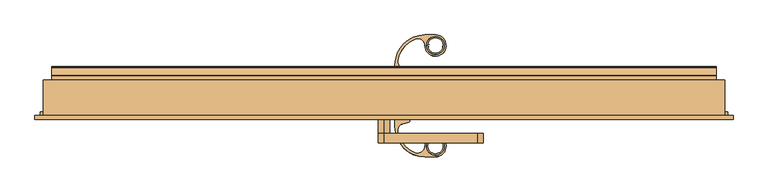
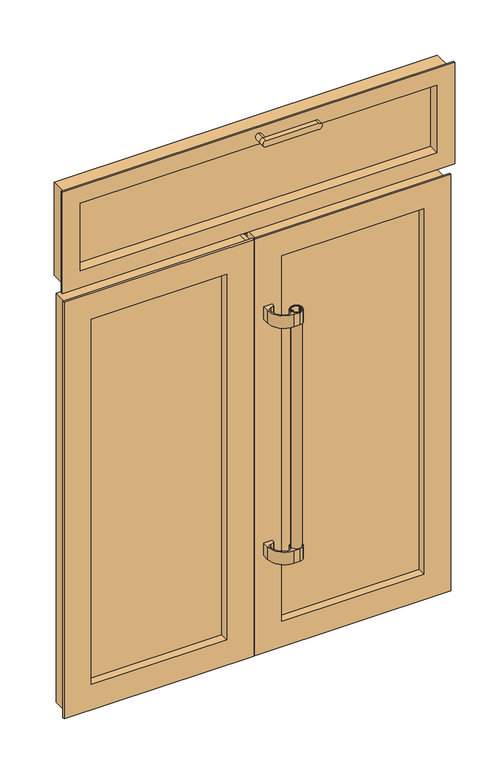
"""IFC4 building model written with IfcOpenShell, lengths in millimetres: door geometry, Dvokrilna vrata s ventusom__ : Dvokrilna vrata s ventusom__."""

from ifc_helpers import new_model, si_unit, point, frame, frame_2d, origin, place, context, project, spatial, polyline, circle_curve, trimmed, segment, composite_curve, outline, extrude, faceted_brep, source, transform, mapped, element, save
from ifc_brep_helpers import plane_surface, cylinder_surface, revolved_surface, advanced_brep


def door_cfd425c1(model_context):
    return source(origin(), model_context, "Body", "SolidModel", [
        advanced_brep(
        [(0.0, -82.999756, 2097.9939147), (200.0, -82.999756, 2097.9939147), (200.0, -82.999756, 2122.9939147), (0.0, -82.999756, 2122.9939147), (0.0, -62.999756, 2122.9939147), (200.0, -62.999756, 2122.9939147), (200.0, -62.999756, 2097.9939147), (0.0, -62.999756, 2097.9939147), (0.0, -32.999756, 2097.9939147), (0.0, -32.999756, 2122.9939147)],
        [
            (0, 1),
            (1, 2, circle_curve(frame((200.0, -82.999756, 2110.4939147), z_axis=(0.0, -1.0, 0.0), x_axis=(0.0, 0.0, 1.0)), 12.5)),
            (2, 3),
            (3, 0, circle_curve(frame((0.0, -82.999756, 2110.4939147), z_axis=(0.0, -1.0, 0.0), x_axis=(0.0, 0.0, 1.0)), 12.5)),
            (4, 5),
            (5, 6, circle_curve(frame((200.0, -62.999756, 2110.4939147), z_axis=(0.0, 1.0, 0.0), x_axis=(0.0, 0.0, 1.0)), 12.5)),
            (6, 7),
            (7, 4, circle_curve(frame((0.0, -62.999756, 2110.4939147), z_axis=(0.0, -1.0, 0.0), x_axis=(0.0, 0.0, 1.0)), 12.5)),
            (0, 7),
            (6, 1),
            (5, 2),
            (4, 3),
            (4, 7, circle_curve(frame((0.0, -62.999756, 2110.4939147), z_axis=(0.0, -1.0, 0.0), x_axis=(0.0, 0.0, 1.0)), 12.5)),
            (8, 9, circle_curve(frame((0.0, -32.999756, 2110.4939147), z_axis=(0.0, 1.0, 0.0), x_axis=(0.0, 0.0, 1.0)), 12.5)),
            (9, 8, circle_curve(frame((0.0, -32.999756, 2110.4939147), z_axis=(0.0, 1.0, 0.0), x_axis=(0.0, 0.0, 1.0)), 12.5)),
            (9, 4),
            (7, 8),
        ],
        [
            plane_surface(frame((0.0, -82.999756, 2097.9939147), z_axis=(0.0, -1.0, 0.0), x_axis=(1.0, 0.0, 0.0))),
            plane_surface(frame((0.0, -62.999756, 2097.9939147), z_axis=(0.0, 1.0, 0.0), x_axis=(-1.0, 0.0, 0.0))),
            plane_surface(frame((0.0, -82.999756, 2097.9939147), z_axis=(0.0, 0.0, -1.0), x_axis=(0.0, 1.0, 0.0))),
            cylinder_surface(frame((200.0, -62.999756, 2110.4939147), z_axis=(0.0, -1.0, 0.0), x_axis=(0.0, 0.0, 1.0)), 12.5),
            plane_surface(frame((200.0, -82.999756, 2122.9939147), z_axis=(0.0, 0.0, 1.0), x_axis=(0.0, 1.0, 0.0))),
            cylinder_surface(frame((0.0, -62.999756, 2110.4939147), z_axis=(0.0, -1.0, 0.0), x_axis=(0.0, 0.0, 1.0)), 12.5),
            plane_surface(frame((0.0, -32.999756, 2122.9939147), z_axis=(0.0, 1.0, 0.0), x_axis=(1.0, 0.0, 0.0))),
            cylinder_surface(frame((0.0, -32.999756, 2110.4939147), z_axis=(0.0, -1.0, 0.0), x_axis=(0.0, 0.0, 1.0)), 12.5),
        ],
        [
            (0, [[1, 2, 3, 4]]),
            (1, [[5, 6, 7, 8]]),
            (2, [[-1, 9, -7, 10]]),
            (3, [[-2, -10, -6, 11]]),
            (4, [[-3, -11, -5, 12]]),
            (5, [[-4, -12, 13, -9]]),
            (6, [[14, 15]]),
            (7, [[-15, 16, -8, 17]]),
            (7, [[-14, -17, -13, -16]]),
        ],
    ),
        advanced_brep(
        [(728.9999515, 51.5038013, 2128.9999515), (728.9999515, -24.999648, 2128.9999515), (728.9999515, -24.999648, 1756.0000485), (728.9999515, 51.5038013, 1756.0000485), (746.499939, -24.999648, 2146.499939), (746.499939, -24.999648, 1738.500061), (-746.499939, -24.999648, 1738.500061), (-746.499939, -24.999648, 2146.499939), (-728.9999515, -24.999648, 2128.9999515), (-728.9999515, -24.999648, 1756.0000485), (-728.9999515, 51.5038013, 1756.0000485), (-728.9999515, 51.5038013, 2128.9999515), (710.4939147, 51.5038013, 1774.5060853), (710.4939147, 51.5038013, 2110.4939147), (-710.4939147, 51.5038013, 2110.4939147), (-710.4939147, 51.5038013, 1774.5060853), (710.4939147, 60.0038013, 2110.4939147), (710.4939147, 60.0038013, 1774.5060853), (710.4939147, 61.4141959, 1774.5111266), (710.4939147, 61.4037953, 1777.4208963), (710.4939147, 65.4038077, 1784.3492482), (710.4939147, 77.4038016, 1777.4209945), (710.4939147, 78.5507585, 1774.5060853), (710.4939147, 79.9814633, 1774.5060853), (710.4939147, 78.0037713, 1778.6911593), (710.4939147, 61.0038323, 1788.5061013), (710.4939147, 60.0038013, 1788.5061013), (-710.4939147, 60.0038013, 1774.5060853), (-710.4939147, 61.4141959, 1774.5111266), (-710.4939147, 61.4037953, 1777.4208963), (-710.4939147, 65.4038077, 1784.3492482), (-710.4939147, 77.4038016, 1777.4209945), (-710.4939147, 78.5507585, 1774.5060853), (-710.4939147, 79.9814633, 1774.5060853), (-710.4939147, 78.0037713, 1778.6911593), (-710.4939147, 61.0038323, 1788.5061013), (-710.4939147, 60.0038013, 1788.5061013), (-710.4939147, 60.0038013, 2110.4939147), (678.0736554, 60.0038013, 1806.9263446), (678.0736554, 60.0038013, 2078.0736554), (-678.0736554, 60.0038013, 2078.0736554), (-678.0736554, 60.0038013, 1806.9263446), (678.0736554, 52.5070907, 2078.0736554), (678.0736554, 52.5070907, 1806.9263446), (-678.0736554, 52.5070907, 1806.9263446), (690.0778178, 52.5070907, 1794.9221822), (690.0778178, 52.5070907, 2090.0778178), (-690.0778178, 52.5070907, 2090.0778178), (-690.0778178, 52.5070907, 1794.9221822), (-678.0736554, 52.5070907, 2078.0736554), (690.0778178, 8.5070907, 2090.0778178), (690.0778178, 8.5070907, 1794.9221822), (-690.0778178, 8.5070907, 1794.9221822), (-690.0778178, 8.5070907, 2090.0778178), (677.9998235, 8.5070907, 1807.0001765), (677.9998235, 8.5070907, 2077.9998235), (-677.9998235, 8.5070907, 2077.9998235), (-677.9998235, 8.5070907, 1807.0001765), (677.9998235, -32.999756, 2077.9998235), (677.9998235, -32.999756, 1807.0001765), (-677.9998235, -32.999756, 1807.0001765), (746.499939, -32.999756, 1738.500061), (746.499939, -32.999756, 2146.499939), (-746.499939, -32.999756, 2146.499939), (-746.499939, -32.999756, 1738.500061), (-677.9998235, -32.999756, 2077.9998235)],
        [
            (0, 1),
            (1, 2),
            (2, 3),
            (3, 0),
            (4, 5),
            (5, 6),
            (6, 7),
            (7, 4),
            (1, 8),
            (8, 9),
            (9, 2),
            (9, 10),
            (10, 3),
            (10, 11),
            (11, 0),
            (12, 13),
            (13, 14),
            (14, 15),
            (15, 12),
            (16, 13),
            (12, 17),
            (17, 18),
            (18, 19),
            (19, 20),
            (20, 21),
            (21, 22, circle_curve(frame((710.4939147, 75.416766, 1774.9560302), z_axis=(-1.0, 0.0, 0.0), x_axis=(0.0, 0.6275919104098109, 0.7785424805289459)), 3.1661269)),
            (22, 23),
            (23, 24, circle_curve(frame((710.4939147, 75.7117201, 1775.0482067), z_axis=(1.0, 0.0, 0.0), x_axis=(0.0, 0.9920357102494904, -0.12595693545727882)), 4.3040217)),
            (24, 25),
            (25, 26),
            (26, 16),
            (15, 27),
            (27, 17),
            (27, 28),
            (28, 18),
            (28, 29),
            (29, 19),
            (29, 30),
            (30, 20),
            (30, 31),
            (31, 21),
            (31, 32, circle_curve(frame((-710.4939147, 75.416766, 1774.9560302), z_axis=(-1.0, 0.0, 0.0), x_axis=(0.0, 0.6275919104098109, 0.7785424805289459)), 3.1661269)),
            (32, 22),
            (32, 33),
            (33, 23),
            (33, 34, circle_curve(frame((-710.4939147, 75.7117201, 1775.0482067), z_axis=(1.0, 0.0, 0.0), x_axis=(0.0, 0.9920357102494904, -0.12595693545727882)), 4.3040217)),
            (34, 24),
            (34, 35),
            (35, 25),
            (35, 36),
            (36, 26),
            (37, 16),
            (36, 37),
            (38, 39),
            (39, 40),
            (40, 41),
            (41, 38),
            (42, 39),
            (38, 43),
            (43, 42),
            (41, 44),
            (44, 43),
            (45, 46),
            (46, 47),
            (47, 48),
            (48, 45),
            (44, 49),
            (49, 42),
            (50, 46),
            (45, 51),
            (51, 50),
            (48, 52),
            (52, 51),
            (52, 53),
            (53, 50),
            (54, 55),
            (55, 56),
            (56, 57),
            (57, 54),
            (58, 55),
            (54, 59),
            (59, 58),
            (57, 60),
            (60, 59),
            (61, 62),
            (62, 63),
            (63, 64),
            (64, 61),
            (60, 65),
            (65, 58),
            (61, 5),
            (4, 62),
            (64, 6),
            (8, 11),
            (14, 37),
            (40, 49),
            (47, 53),
            (56, 65),
            (63, 7),
        ],
        [
            plane_surface(frame((728.9999515, -24.999648, 2128.9999515), z_axis=(1.0, 0.0, 0.0), x_axis=(0.0, 0.0, -1.0))),
            plane_surface(frame((-746.499939, -24.999648, 2146.499939), z_axis=(0.0, 1.0, 0.0), x_axis=(1.0, 0.0, 0.0))),
            plane_surface(frame((728.9999515, -24.999648, 1756.0000485), z_axis=(0.0, 0.0, -1.0), x_axis=(-1.0, 0.0, 0.0))),
            plane_surface(frame((-728.9999515, 51.5038013, 2128.9999515), z_axis=(0.0, 1.0, 0.0), x_axis=(1.0, 0.0, 0.0))),
            plane_surface(frame((710.4939147, 51.5038013, 2110.4939147), z_axis=(1.0, 0.0, 0.0), x_axis=(0.0, 0.0, -1.0))),
            plane_surface(frame((710.4939147, 51.5038013, 1774.5060853), z_axis=(0.0, 0.0, -1.0), x_axis=(-1.0, 0.0, 0.0))),
            plane_surface(frame((-710.4939147, 61.4141959, 1774.5111266), z_axis=(0.0, 0.003574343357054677, -0.9999936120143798), x_axis=(1.0, 0.0, 0.0))),
            plane_surface(frame((-710.4939147, 61.4037953, 1777.4208963), z_axis=(0.0, 0.9999936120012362, 0.0035743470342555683), x_axis=(1.0, 0.0, 0.0))),
            plane_surface(frame((-710.4939147, 65.4038077, 1784.3492482), z_axis=(0.0, 0.8660293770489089, -0.49999311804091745), x_axis=(1.0, 0.0, 0.0))),
            plane_surface(frame((-710.4939147, 77.4038016, 1777.4209945), z_axis=(0.0, -0.5000029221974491, -0.8660237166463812), x_axis=(1.0, 0.0, 0.0))),
            revolved_surface(polyline([(710.4939147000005, 77.40380162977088, 1777.4209944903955), (-710.4939147, 77.40380162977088, 1777.4209944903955)]), (-710.4939147, 75.416766, 1774.9560302), (1.0000000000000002, 0.0, 0.0)),
            plane_surface(frame((-710.4939147, 79.9814633, 1774.5060853), z_axis=(0.0, 0.0, -1.0), x_axis=(1.0, 0.0, 0.0))),
            cylinder_surface(frame((-710.4939147, 75.7117201, 1775.0482067), z_axis=(-1.0, 0.0, 0.0), x_axis=(0.0, 0.9920357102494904, -0.12595693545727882)), 4.3040217),
            plane_surface(frame((-710.4939147, 61.0038323, 1788.5061013), z_axis=(0.0, 0.5000008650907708, 0.8660249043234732), x_axis=(1.0, 0.0, 0.0))),
            plane_surface(frame((-710.4939147, 60.0038013, 1788.5061013), z_axis=(0.0, 0.0, 1.0), x_axis=(1.0, 0.0, 0.0))),
            plane_surface(frame((-710.4939147, 60.0038013, 2110.4939147), z_axis=(0.0, 1.0, 0.0), x_axis=(1.0, 0.0, 0.0))),
            plane_surface(frame((678.0736554, 60.0038013, 2078.0736554), z_axis=(-1.0, 0.0, 0.0), x_axis=(0.0, 0.0, -1.0))),
            plane_surface(frame((678.0736554, 60.0038013, 1806.9263446), z_axis=(0.0, 0.0, 1.0), x_axis=(-1.0, 0.0, 0.0))),
            plane_surface(frame((-678.0736554, 52.5070907, 2078.0736554), z_axis=(0.0, -1.0, 0.0), x_axis=(1.0, 0.0, 0.0))),
            plane_surface(frame((690.0778178, 52.5070907, 2090.0778178), z_axis=(-1.0, 0.0, 0.0), x_axis=(0.0, 0.0, -1.0))),
            plane_surface(frame((690.0778178, 52.5070907, 1794.9221822), z_axis=(0.0, 0.0, 1.0), x_axis=(-1.0, 0.0, 0.0))),
            plane_surface(frame((-690.0778178, 8.5070907, 2090.0778178), z_axis=(0.0, 1.0, 0.0), x_axis=(1.0, 0.0, 0.0))),
            plane_surface(frame((677.9998235, 8.5070907, 2077.9998235), z_axis=(-1.0, 0.0, 0.0), x_axis=(0.0, 0.0, -1.0))),
            plane_surface(frame((677.9998235, 8.5070907, 1807.0001765), z_axis=(0.0, 0.0, 1.0), x_axis=(-1.0, 0.0, 0.0))),
            plane_surface(frame((-677.9998235, -32.999756, 2077.9998235), z_axis=(0.0, -1.0, 0.0), x_axis=(1.0, 0.0, 0.0))),
            plane_surface(frame((746.499939, -30.1996883, 2146.499939), z_axis=(1.0, 0.0, 0.0), x_axis=(0.0, 0.0, -1.0))),
            plane_surface(frame((746.499939, -30.1996883, 1738.500061), z_axis=(0.0, 0.0, -1.0), x_axis=(-1.0, 0.0, 0.0))),
            plane_surface(frame((-728.9999515, -24.999648, 1756.0000485), z_axis=(-1.0, 0.0, 0.0), x_axis=(0.0, 0.0, 1.0))),
            plane_surface(frame((-710.4939147, 51.5038013, 1774.5060853), z_axis=(-1.0, 0.0, 0.0), x_axis=(0.0, 0.0, 1.0))),
            plane_surface(frame((-678.0736554, 60.0038013, 1806.9263446), z_axis=(1.0, 0.0, 0.0), x_axis=(0.0, 0.0, 1.0))),
            plane_surface(frame((-690.0778178, 52.5070907, 1794.9221822), z_axis=(1.0, 0.0, 0.0), x_axis=(0.0, 0.0, 1.0))),
            plane_surface(frame((-677.9998235, 8.5070907, 1807.0001765), z_axis=(1.0, 0.0, 0.0), x_axis=(0.0, 0.0, 1.0))),
            plane_surface(frame((-746.499939, -30.1996883, 1738.500061), z_axis=(-1.0, 0.0, 0.0), x_axis=(0.0, 0.0, 1.0))),
            plane_surface(frame((-728.9999515, -24.999648, 2128.9999515), z_axis=(0.0, 0.0, 1.0), x_axis=(1.0, 0.0, 0.0))),
            plane_surface(frame((-710.4939147, 51.5038013, 2110.4939147), z_axis=(0.0, 0.0, 1.0), x_axis=(1.0, 0.0, 0.0))),
            plane_surface(frame((-678.0736554, 60.0038013, 2078.0736554), z_axis=(0.0, 0.0, -1.0), x_axis=(1.0, 0.0, 0.0))),
            plane_surface(frame((-690.0778178, 52.5070907, 2090.0778178), z_axis=(0.0, 0.0, -1.0), x_axis=(1.0, 0.0, 0.0))),
            plane_surface(frame((-677.9998235, 8.5070907, 2077.9998235), z_axis=(0.0, 0.0, -1.0), x_axis=(1.0, 0.0, 0.0))),
            plane_surface(frame((-746.499939, -30.1996883, 2146.499939), z_axis=(0.0, 0.0, 1.0), x_axis=(1.0, 0.0, 0.0))),
        ],
        [
            (0, [[1, 2, 3, 4]]),
            (1, [[5, 6, 7, 8], [-2, 9, 10, 11]]),
            (2, [[-3, -11, 12, 13]]),
            (3, [[-4, -13, 14, 15], [16, 17, 18, 19]]),
            (4, [[20, -16, 21, 22, 23, 24, 25, 26, 27, 28, 29, 30, 31]]),
            (5, [[-21, -19, 32, 33]]),
            (6, [[34, 35, -22, -33]]),
            (7, [[36, 37, -23, -35]]),
            (8, [[38, 39, -24, -37]]),
            (9, [[40, 41, -25, -39]]),
            (10, [[42, 43, -26, -41]]),
            (11, [[44, 45, -27, -43]]),
            (12, [[46, 47, -28, -45]]),
            (13, [[48, 49, -29, -47]]),
            (14, [[50, 51, -30, -49]]),
            (15, [[52, -31, -51, 53], [54, 55, 56, 57]]),
            (16, [[58, -54, 59, 60]]),
            (17, [[-59, -57, 61, 62]]),
            (18, [[63, 64, 65, 66], [-60, -62, 67, 68]]),
            (19, [[69, -63, 70, 71]]),
            (20, [[-70, -66, 72, 73]]),
            (21, [[-71, -73, 74, 75], [76, 77, 78, 79]]),
            (22, [[80, -76, 81, 82]]),
            (23, [[-81, -79, 83, 84]]),
            (24, [[85, 86, 87, 88], [-82, -84, 89, 90]]),
            (25, [[-85, 91, -5, 92]]),
            (26, [[-91, -88, 93, -6]]),
            (27, [[-12, -10, 94, -14]]),
            (28, [[-32, -18, 95, -53, -50, -48, -46, -44, -42, -40, -38, -36, -34]]),
            (29, [[-61, -56, 96, -67]]),
            (30, [[-72, -65, 97, -74]]),
            (31, [[-83, -78, 98, -89]]),
            (32, [[-93, -87, 99, -7]]),
            (33, [[-1, -15, -94, -9]]),
            (34, [[-20, -52, -95, -17]]),
            (35, [[-58, -68, -96, -55]]),
            (36, [[-69, -75, -97, -64]]),
            (37, [[-80, -90, -98, -77]]),
            (38, [[-92, -8, -99, -86]]),
        ],
    ),
        extrude(outline(polyline([(690.0778178, 8.5070907), (-690.0778178, 8.5070907), (-690.0778178, 51.5038013), (690.0778178, 51.5038013), (690.0778178, 8.5070907)])), frame((0.0, 0.0, 1794.9221822), z_axis=(0.0, 0.0, 1.0), x_axis=(1.0, 0.0, 0.0)), (0.0, 0.0, 1.0), 295.1556356),
        faceted_brep([(-14.9998666, -25.0, 1694.4976678), (-14.9998666, -25.0, 20.0023322), (-14.9998666, -16.646765, 20.0023326), (-14.9998666, -16.646765, 48.5023322), (-14.9998666, -16.4917818, 1665.9976678), (-14.9998666, -16.646765, 1694.4976674), (-735.4976678, -25.0, 1694.4976678), (-735.4976678, -25.0, 20.0023322), (-117.4957952, -25.0, 1592.0017387), (-117.4957952, -25.0, 122.4982613), (-633.0017387, -25.0, 122.4982613), (-633.0017387, -25.0, 1592.0017387), (-735.4976674, -16.646765, 20.0023326), (-735.4976674, -16.646765, 1694.4976674), (-25.9998666, -16.646765, 1665.9976678), (-25.9998666, -16.646765, 1683.4976674), (-724.4976674, -16.646765, 1683.4976674), (-724.4976674, -16.646765, 31.0023326), (-25.9998666, -16.646765, 31.0023326), (-25.9998666, -16.646765, 48.5023322), (-5.492721, -16.4917818, 48.5023322), (-5.492721, -16.4917818, 1665.9976678), (-117.4957952, 6.5067387, 1592.0017387), (-117.4957952, 6.5067387, 122.4982613), (-102.4933814, 6.5067387, 1607.0041526), (-102.4933814, 6.5067387, 107.4958474), (-648.0041526, 6.5067387, 107.4958474), (-648.0041526, 6.5067387, 1607.0041526), (-633.0017387, 6.5067387, 1592.0017387), (-633.0017387, 6.5067387, 122.4982613), (-102.4933814, 50.5067387, 1607.0041526), (-102.4933814, 50.5067387, 107.4958474), (-648.0041526, 50.5067387, 1607.0041526), (-648.0041526, 50.5067387, 107.4958474), (-117.4957886, 50.5067387, 1592.0017454), (-117.4957886, 50.5067387, 122.4982546), (-633.0017454, 50.5067387, 122.4982546), (-633.0017454, 50.5067387, 1592.0017454), (-117.4957886, 59.9999866, 1592.0017454), (-117.4957886, 59.9999866, 122.4982546), (-39.9998666, 59.9999866, 1669.4976674), (-39.9998666, 59.9999866, 45.0023326), (-710.4976674, 59.9999866, 44.9982553), (-710.4976674, 59.9999866, 1669.4976674), (-633.0017454, 59.9999866, 1592.0017454), (-633.0017454, 59.9999866, 122.4982546), (-39.9998666, 51.4963512, 1669.4976674), (-39.9998666, 51.4963512, 34.8482553), (-39.9998666, 39.7470601, 34.8482553), (-39.9998666, 39.7470601, 33.5977735), (-39.9998666, 42.6770113, 33.5977735), (-39.9998666, 41.7431491, 28.6475959), (-39.9998666, 45.1528763, 28.3738347), (-39.9998666, 47.6474994, 27.9238758), (-39.9998666, 46.614954, 33.5977735), (-39.9998666, 52.7470601, 33.5977735), (-39.9998666, 52.7470601, 42.7030483), (-39.9998666, 53.8843606, 43.8444697), (-39.9998666, 61.0093813, 43.8444697), (-39.9998666, 68.5506954, 35.7574003), (-39.9998666, 68.5506954, 33.8818501), (-39.9998666, 70.0506954, 33.8818501), (-39.9998666, 70.0506954, 35.9083823), (-39.9998666, 61.5742517, 44.9982553), (-720.6517447, 51.4963512, 34.8482553), (-720.6517447, 51.4963512, 1679.6517447), (-29.8457893, 51.4963512, 1679.6517447), (-29.8457893, 51.4963512, 1665.9976678), (-34.9975292, 51.4963512, 1665.9976678), (-34.9975292, 51.4963512, 48.5023322), (-29.8457893, 51.4963512, 48.5023322), (-29.8457893, 51.4963512, 34.8482553), (-710.4976674, 51.4963512, 1669.4976674), (-710.4976674, 51.4963512, 34.8482553), (-29.8457893, -14.7996746, 34.8482553), (-720.6517447, -14.7996746, 34.8482553), (-710.4976674, 39.7470601, 34.8482553), (-710.4976674, 39.7470601, 33.5977735), (-710.4976674, 42.6770113, 33.5977735), (-710.4976674, 41.7431491, 28.6475959), (-710.4976674, 45.1528763, 28.3738347), (-710.4976674, 47.6474994, 27.9238758), (-710.4976674, 46.614954, 33.5977735), (-710.4976674, 52.7470601, 33.5977735), (-710.4976674, 52.7470601, 42.7030483), (-710.4976674, 53.8843606, 43.8444697), (-710.4976674, 61.0093813, 43.8444697), (-710.4976674, 68.5506954, 35.7574003), (-710.4976674, 68.5506954, 33.8818501), (-710.4976674, 70.0506954, 33.8818501), (-710.4976674, 70.0506954, 35.9083823), (-710.4976674, 61.5742517, 44.9982553), (-29.8457893, -14.7996746, 48.5023322), (-29.8457893, -14.7996746, 1679.6517447), (-29.8457893, -14.7996746, 1665.9976678), (-34.9975292, 60.0070601, 48.5023322), (10.0, 60.0070601, 48.5023322), (10.0, 51.5370044, 48.5023322), (-5.492721, 51.5370044, 48.5023322), (-25.9998666, -14.7996746, 48.5023322), (-25.9998666, -14.7996746, 31.0023326), (-724.4976674, -14.7996746, 31.0023326), (-724.4976674, -14.7996746, 1683.4976674), (-25.9998666, -14.7996746, 1683.4976674), (-25.9998666, -14.7996746, 1665.9976678), (-720.6517447, -14.7996746, 1679.6517447), (-34.9975292, 60.0070601, 1665.9976678), (10.0, 60.0070601, 1665.9976678), (10.0, 51.5370044, 1665.9976678), (-5.492721, 51.5370044, 1665.9976678)], [[[0, 1, 2, 3, 4, 5]], [[1, 0, 6, 7], [8, 9, 10, 11]], [[2, 1, 7, 12]], [[2, 12, 13, 5, 4, 14, 15, 16, 17, 18, 19, 3]], [[20, 21, 4, 3]], [[8, 22, 23, 9]], [[24, 25, 26, 27], [23, 22, 28, 29]], [[9, 23, 29, 10]], [[24, 30, 31, 25]], [[31, 30, 32, 33], [34, 35, 36, 37]], [[25, 31, 33, 26]], [[34, 38, 39, 35]], [[40, 41, 42, 43], [39, 38, 44, 45]], [[35, 39, 45, 36]], [[40, 46, 47, 48, 49, 50, 51, 52, 53, 54, 55, 56, 57, 58, 59, 60, 61, 62, 63, 41]], [[64, 65, 66, 67, 68, 69, 70, 71, 47, 46, 72, 73]], [[71, 74, 75, 64, 73, 76, 48, 47]], [[76, 77, 49, 48]], [[77, 78, 50, 49]], [[78, 79, 51, 50]], [[79, 80, 52, 51]], [[80, 81, 53, 52]], [[81, 82, 54, 53]], [[82, 83, 55, 54]], [[83, 84, 56, 55]], [[84, 85, 57, 56]], [[85, 86, 58, 57]], [[86, 87, 59, 58]], [[87, 88, 60, 59]], [[88, 89, 61, 60]], [[89, 90, 62, 61]], [[90, 91, 63, 62]], [[63, 91, 42, 41]], [[74, 71, 70, 92]], [[66, 93, 94, 67]], [[69, 95, 96, 97, 98, 20, 3, 19, 99, 92, 70]], [[75, 74, 92, 99, 100, 101, 102, 103, 104, 94, 93, 105]], [[18, 100, 99, 19]], [[103, 15, 14, 104]], [[100, 18, 17, 101]], [[12, 7, 6, 13]], [[10, 29, 28, 11]], [[26, 33, 32, 27]], [[36, 45, 44, 37]], [[64, 75, 105, 65]], [[72, 43, 42, 91, 90, 89, 88, 87, 86, 85, 84, 83, 82, 81, 80, 79, 78, 77, 76, 73]], [[101, 17, 16, 102]], [[68, 106, 95, 69]], [[106, 107, 96, 95]], [[107, 108, 97, 96]], [[108, 109, 98, 97]], [[109, 21, 20, 98]], [[0, 5, 13, 6]], [[22, 8, 11, 28]], [[30, 24, 27, 32]], [[38, 34, 37, 44]], [[46, 40, 43, 72]], [[93, 66, 65, 105]], [[15, 103, 102, 16]], [[21, 109, 108, 107, 106, 68, 67, 94, 104, 14, 4]]]),
        extrude(outline(polyline([(-102.4933814, 6.5067387), (-648.0041526, 6.5067387), (-648.0041526, 50.5067387), (-102.4933814, 50.5067387), (-102.4933814, 6.5067387)])), frame((0.0, 0.0, 107.4958474), z_axis=(0.0, 0.0, 1.0), x_axis=(1.0, 0.0, 0.0)), (0.0, 0.0, 1.0), 1499.5083052),
        extrude(outline(composite_curve([segment(trimmed(circle_curve(frame_2d((110.0468775, 125.4548223)), 19.0), [point((91.0468775, 125.4548223))], [point((129.0468775, 125.4548223))], False, "CARTESIAN"), True, "CONTINUOUS"), segment(trimmed(circle_curve(frame_2d((110.0468775, 125.4548223)), 19.0), [point((129.0468775, 125.4548223))], [point((91.0468775, 125.4548223))], False, "CARTESIAN"), True, "CONTINUOUS")], self_intersect=False), holes=[composite_curve([segment(trimmed(circle_curve(frame_2d((95.5868775, 125.4548223)), 1.55), [point((96.682893, 126.5508378))], [point((96.682893, 124.3588068))], True, "CARTESIAN"), True, "CONTINUOUS"), segment(polyline([(96.682893, 124.3588068), (97.8294943, 124.3588068), (97.8294943, 123.3876576)]), True, "CONTINUOUS"), segment(trimmed(circle_curve(frame_2d((95.5868775, 125.4548223)), 3.05), [point((97.8294943, 123.3876576))], [point((95.5868775, 122.4048223))], False, "CARTESIAN"), True, "CONTINUOUS"), segment(polyline([(95.5868775, 122.4048223), (94.3402706, 122.4048223)]), True, "CONTINUOUS"), segment(trimmed(circle_curve(frame_2d((110.0468775, 125.4548223)), 16.0), [point((94.3402706, 122.4048223))], [point((125.7534844, 122.4048223))], True, "CARTESIAN"), True, "CONTINUOUS"), segment(polyline([(125.7534844, 122.4048223), (124.5468775, 122.4048223)]), True, "CONTINUOUS"), segment(trimmed(circle_curve(frame_2d((124.5468775, 125.4548223)), 3.05), [point((124.5468775, 122.4048223))], [point((122.3042607, 123.3876576))], False, "CARTESIAN"), True, "CONTINUOUS"), segment(polyline([(122.3042607, 123.3876576), (122.3042607, 124.3588068), (123.450862, 124.3588068)]), True, "CONTINUOUS"), segment(trimmed(circle_curve(frame_2d((124.5468775, 125.4548223)), 1.55), [point((123.450862, 124.3588068))], [point((123.450862, 126.5508378))], True, "CARTESIAN"), True, "CONTINUOUS"), segment(polyline([(123.450862, 126.5508378), (122.3042607, 126.5508378), (122.3042607, 127.5219871)]), True, "CONTINUOUS"), segment(trimmed(circle_curve(frame_2d((124.5468775, 125.4548223)), 3.05), [point((122.3042607, 127.5219871))], [point((124.5468775, 128.5048223))], False, "CARTESIAN"), True, "CONTINUOUS"), segment(polyline([(124.5468775, 128.5048223), (125.7534844, 128.5048223)]), True, "CONTINUOUS"), segment(trimmed(circle_curve(frame_2d((110.0468775, 125.4548223)), 16.0), [point((125.7534844, 128.5048223))], [point((94.3402706, 128.5048223))], True, "CARTESIAN"), True, "CONTINUOUS"), segment(polyline([(94.3402706, 128.5048223), (95.5868775, 128.5048223)]), True, "CONTINUOUS"), segment(trimmed(circle_curve(frame_2d((95.5868775, 125.4548223)), 3.05), [point((95.5868775, 128.5048223))], [point((97.8294943, 127.5219871))], False, "CARTESIAN"), True, "CONTINUOUS"), segment(polyline([(97.8294943, 127.5219871), (97.8294943, 126.5508378), (96.682893, 126.5508378)]), True, "CONTINUOUS")], self_intersect=False)]), frame((0.0, 0.0, 411.375), z_axis=(0.0, 0.0, 1.0), x_axis=(1.0, 0.0, 0.0)), (0.0, 0.0, 1.0), 1000.0),
        extrude(outline(composite_curve([segment(polyline([(28.5000004, 60.0070601), (23.5000004, 60.0070601), (23.5000004, 84.2048223)]), True, "CONTINUOUS"), segment(trimmed(circle_curve(frame_2d((87.4972413, 84.2048223)), 63.997241), [point((23.5000004, 84.2048223))], [point((87.4972413, 148.2020633))], False, "CARTESIAN"), True, "CONTINUOUS"), segment(polyline([(87.4972413, 148.2020633), (110.4011782, 148.2020633)]), True, "CONTINUOUS"), segment(trimmed(circle_curve(frame_2d((109.9827331, 125.2625146)), 22.9433648), [point((110.4011782, 148.2020633))], [point((123.418992, 143.8599589))], False, "CARTESIAN"), True, "CONTINUOUS"), segment(trimmed(circle_curve(frame_2d((110.1246147, 125.4588964)), 22.7010919), [point((123.418992, 143.8599589))], [point((125.2695988, 108.5482775))], False, "CARTESIAN"), True, "CONTINUOUS"), segment(trimmed(circle_curve(frame_2d((110.041819, 125.5513446)), 22.8251959), [point((125.2695988, 108.5482775))], [point((96.674763, 107.0496857))], False, "CARTESIAN"), True, "CONTINUOUS"), segment(trimmed(circle_curve(frame_2d((109.9285101, 125.3945111)), 22.631713), [point((96.674763, 107.0496857))], [point((87.2968775, 125.4548223))], False, "CARTESIAN"), True, "CONTINUOUS"), segment(trimmed(circle_curve(frame_2d((72.2968858, 125.4947959)), 15.0000449), [point((87.2968775, 125.4548223))], [point((67.1290237, 139.5765056))], True, "CARTESIAN"), True, "CONTINUOUS"), segment(trimmed(circle_curve(frame_2d((87.4276631, 84.2655205)), 58.9180773), [point((67.1290237, 139.5765056))], [point((29.4321544, 94.6511262))], True, "CARTESIAN"), True, "CONTINUOUS"), segment(trimmed(circle_curve(frame_2d((44.1470217, 91.7207385)), 15.0038159), [point((29.4321544, 94.6511262))], [point((40.2637484, 77.2281653))], True, "CARTESIAN"), True, "CONTINUOUS"), segment(polyline([(40.2637484, 77.2281653), (51.7940956, 74.1386181)]), True, "CONTINUOUS"), segment(trimmed(circle_curve(frame_2d((50.5000004, 69.3089889)), 5.0), [point((51.7940956, 74.1386181))], [point((55.5000004, 69.3089889))], False, "CARTESIAN"), True, "CONTINUOUS"), segment(polyline([(55.5000004, 69.3089889), (55.5000004, 60.0070601), (28.5000004, 60.0070601)]), True, "CONTINUOUS")], self_intersect=False), holes=[composite_curve([segment(trimmed(circle_curve(frame_2d((110.0468775, 125.4548223)), 19.25), [point((90.7968775, 125.4548223))], [point((129.2968775, 125.4548223))], True, "CARTESIAN"), True, "CONTINUOUS"), segment(trimmed(circle_curve(frame_2d((110.0468775, 125.4548223)), 19.25), [point((129.2968775, 125.4548223))], [point((90.7968775, 125.4548223))], True, "CARTESIAN"), True, "CONTINUOUS")], self_intersect=False)]), frame((0.0, 0.0, 1361.375), z_axis=(0.0, 0.0, 1.0), x_axis=(1.0, 0.0, 0.0)), (0.0, 0.0, 1.0), 50.0),
        extrude(outline(composite_curve([segment(polyline([(28.5000004, 60.0070601), (23.5000004, 60.0070601), (23.5000004, 84.2048223)]), True, "CONTINUOUS"), segment(trimmed(circle_curve(frame_2d((87.4972413, 84.2048223)), 63.997241), [point((23.5000004, 84.2048223))], [point((87.4972413, 148.2020633))], False, "CARTESIAN"), True, "CONTINUOUS"), segment(polyline([(87.4972413, 148.2020633), (110.4011782, 148.2020633)]), True, "CONTINUOUS"), segment(trimmed(circle_curve(frame_2d((109.9827331, 125.2625146)), 22.9433648), [point((110.4011782, 148.2020633))], [point((123.418992, 143.8599589))], False, "CARTESIAN"), True, "CONTINUOUS"), segment(trimmed(circle_curve(frame_2d((110.1246147, 125.4588964)), 22.7010919), [point((123.418992, 143.8599589))], [point((125.2695988, 108.5482775))], False, "CARTESIAN"), True, "CONTINUOUS"), segment(trimmed(circle_curve(frame_2d((110.041819, 125.5513446)), 22.8251959), [point((125.2695988, 108.5482775))], [point((96.674763, 107.0496857))], False, "CARTESIAN"), True, "CONTINUOUS"), segment(trimmed(circle_curve(frame_2d((109.9285101, 125.3945111)), 22.631713), [point((96.674763, 107.0496857))], [point((87.2968775, 125.4548223))], False, "CARTESIAN"), True, "CONTINUOUS"), segment(trimmed(circle_curve(frame_2d((72.2968858, 125.4947959)), 15.0000449), [point((87.2968775, 125.4548223))], [point((67.1290237, 139.5765056))], True, "CARTESIAN"), True, "CONTINUOUS"), segment(trimmed(circle_curve(frame_2d((87.4276631, 84.2655205)), 58.9180773), [point((67.1290237, 139.5765056))], [point((29.4321544, 94.6511262))], True, "CARTESIAN"), True, "CONTINUOUS"), segment(trimmed(circle_curve(frame_2d((44.1470217, 91.7207385)), 15.0038159), [point((29.4321544, 94.6511262))], [point((40.2637484, 77.2281653))], True, "CARTESIAN"), True, "CONTINUOUS"), segment(polyline([(40.2637484, 77.2281653), (51.7940956, 74.1386181)]), True, "CONTINUOUS"), segment(trimmed(circle_curve(frame_2d((50.5000004, 69.3089889)), 5.0), [point((51.7940956, 74.1386181))], [point((55.5000004, 69.3089889))], False, "CARTESIAN"), True, "CONTINUOUS"), segment(polyline([(55.5000004, 69.3089889), (55.5000004, 60.0070601), (28.5000004, 60.0070601)]), True, "CONTINUOUS")], self_intersect=False), holes=[composite_curve([segment(trimmed(circle_curve(frame_2d((110.0468775, 125.4548223)), 19.25), [point((90.7968775, 125.4548223))], [point((129.2968775, 125.4548223))], True, "CARTESIAN"), True, "CONTINUOUS"), segment(trimmed(circle_curve(frame_2d((110.0468775, 125.4548223)), 19.25), [point((129.2968775, 125.4548223))], [point((90.7968775, 125.4548223))], True, "CARTESIAN"), True, "CONTINUOUS")], self_intersect=False)]), frame((0.0, 0.0, 411.375), z_axis=(0.0, 0.0, 1.0), x_axis=(1.0, 0.0, 0.0)), (0.0, 0.0, 1.0), 50.0),
        extrude(outline(composite_curve([segment(trimmed(circle_curve(frame_2d((110.0468775, -90.4477622)), 19.0), [point((91.0468775, -90.4477622))], [point((129.0468775, -90.4477622))], False, "CARTESIAN"), True, "CONTINUOUS"), segment(trimmed(circle_curve(frame_2d((110.0468775, -90.4477622)), 19.0), [point((129.0468775, -90.4477622))], [point((91.0468775, -90.4477622))], False, "CARTESIAN"), True, "CONTINUOUS")], self_intersect=False), holes=[composite_curve([segment(polyline([(96.682893, -91.5437777), (97.8294943, -91.5437777), (97.8294943, -92.514927)]), True, "CONTINUOUS"), segment(trimmed(circle_curve(frame_2d((95.5868775, -90.4477622)), 3.05), [point((97.8294943, -92.514927))], [point((95.5868775, -93.4977622))], False, "CARTESIAN"), True, "CONTINUOUS"), segment(polyline([(95.5868775, -93.4977622), (94.3402706, -93.4977622)]), True, "CONTINUOUS"), segment(trimmed(circle_curve(frame_2d((110.0468775, -90.4477622)), 16.0), [point((94.3402706, -93.4977622))], [point((125.7534844, -93.4977622))], True, "CARTESIAN"), True, "CONTINUOUS"), segment(polyline([(125.7534844, -93.4977622), (124.5468775, -93.4977622)]), True, "CONTINUOUS"), segment(trimmed(circle_curve(frame_2d((124.5468775, -90.4477622)), 3.05), [point((124.5468775, -93.4977622))], [point((122.3042607, -92.514927))], False, "CARTESIAN"), True, "CONTINUOUS"), segment(polyline([(122.3042607, -92.514927), (122.3042607, -91.5437777), (123.450862, -91.5437777)]), True, "CONTINUOUS"), segment(trimmed(circle_curve(frame_2d((124.5468775, -90.4477622)), 1.55), [point((123.450862, -91.5437777))], [point((123.450862, -89.3517467))], True, "CARTESIAN"), True, "CONTINUOUS"), segment(polyline([(123.450862, -89.3517467), (122.3042607, -89.3517467), (122.3042607, -88.3805975)]), True, "CONTINUOUS"), segment(trimmed(circle_curve(frame_2d((124.5468775, -90.4477622)), 3.05), [point((122.3042607, -88.3805975))], [point((124.5468775, -87.3977622))], False, "CARTESIAN"), True, "CONTINUOUS"), segment(polyline([(124.5468775, -87.3977622), (125.7534844, -87.3977622)]), True, "CONTINUOUS"), segment(trimmed(circle_curve(frame_2d((110.0468775, -90.4477622)), 16.0), [point((125.7534844, -87.3977622))], [point((94.3402706, -87.3977622))], True, "CARTESIAN"), True, "CONTINUOUS"), segment(polyline([(94.3402706, -87.3977622), (95.5868775, -87.3977622)]), True, "CONTINUOUS"), segment(trimmed(circle_curve(frame_2d((95.5868775, -90.4477622)), 3.05), [point((95.5868775, -87.3977622))], [point((97.8294943, -88.3805975))], False, "CARTESIAN"), True, "CONTINUOUS"), segment(polyline([(97.8294943, -88.3805975), (97.8294943, -89.3517467), (96.682893, -89.3517467)]), True, "CONTINUOUS"), segment(trimmed(circle_curve(frame_2d((95.5868775, -90.4477622)), 1.55), [point((96.682893, -89.3517467))], [point((96.682893, -91.5437777))], True, "CARTESIAN"), True, "CONTINUOUS")], self_intersect=False)]), frame((0.0, 0.0, 411.375), z_axis=(0.0, 0.0, 1.0), x_axis=(1.0, 0.0, 0.0)), (0.0, 0.0, 1.0), 1000.0),
        extrude(outline(composite_curve([segment(polyline([(28.5000004, -25.0), (55.5000004, -25.0), (55.5000004, -34.3019289)]), True, "CONTINUOUS"), segment(trimmed(circle_curve(frame_2d((50.5000004, -34.3019289)), 5.0), [point((55.5000004, -34.3019289))], [point((51.7940956, -39.131558))], False, "CARTESIAN"), True, "CONTINUOUS"), segment(polyline([(51.7940956, -39.131558), (40.2637484, -42.2211052)]), True, "CONTINUOUS"), segment(trimmed(circle_curve(frame_2d((44.1470217, -56.7136785)), 15.0038159), [point((40.2637484, -42.2211052))], [point((29.4321544, -59.6440661))], True, "CARTESIAN"), True, "CONTINUOUS"), segment(trimmed(circle_curve(frame_2d((87.4276631, -49.2584604)), 58.9180773), [point((29.4321544, -59.6440661))], [point((67.1290237, -104.5694455))], True, "CARTESIAN"), True, "CONTINUOUS"), segment(trimmed(circle_curve(frame_2d((72.2968858, -90.4877358)), 15.0000449), [point((67.1290237, -104.5694455))], [point((87.2968775, -90.4477622))], True, "CARTESIAN"), True, "CONTINUOUS"), segment(trimmed(circle_curve(frame_2d((109.9285101, -90.3874511)), 22.631713), [point((87.2968775, -90.4477622))], [point((96.674763, -72.0426256))], False, "CARTESIAN"), True, "CONTINUOUS"), segment(trimmed(circle_curve(frame_2d((110.041819, -90.5442845)), 22.8251959), [point((96.674763, -72.0426256))], [point((125.2695988, -73.5412175))], False, "CARTESIAN"), True, "CONTINUOUS"), segment(trimmed(circle_curve(frame_2d((110.1246147, -90.4518363)), 22.7010919), [point((125.2695988, -73.5412175))], [point((123.418992, -108.8528989))], False, "CARTESIAN"), True, "CONTINUOUS"), segment(trimmed(circle_curve(frame_2d((109.9827331, -90.2554545)), 22.9433648), [point((123.418992, -108.8528989))], [point((110.4011782, -113.1950032))], False, "CARTESIAN"), True, "CONTINUOUS"), segment(polyline([(110.4011782, -113.1950032), (87.4972413, -113.1950032)]), True, "CONTINUOUS"), segment(trimmed(circle_curve(frame_2d((87.4972413, -49.1977622)), 63.997241), [point((87.4972413, -113.1950032))], [point((23.5000004, -49.1977622))], False, "CARTESIAN"), True, "CONTINUOUS"), segment(polyline([(23.5000004, -49.1977622), (23.5000004, -25.0), (28.5000004, -25.0)]), True, "CONTINUOUS")], self_intersect=False), holes=[composite_curve([segment(trimmed(circle_curve(frame_2d((110.0468775, -90.4477622)), 19.25), [point((90.7968775, -90.4477622))], [point((129.2968775, -90.4477622))], True, "CARTESIAN"), True, "CONTINUOUS"), segment(trimmed(circle_curve(frame_2d((110.0468775, -90.4477622)), 19.25), [point((129.2968775, -90.4477622))], [point((90.7968775, -90.4477622))], True, "CARTESIAN"), True, "CONTINUOUS")], self_intersect=False)]), frame((0.0, 0.0, 1361.375), z_axis=(0.0, 0.0, 1.0), x_axis=(1.0, 0.0, 0.0)), (0.0, 0.0, 1.0), 50.0),
        extrude(outline(composite_curve([segment(polyline([(28.5000004, -25.0), (55.5000004, -25.0), (55.5000004, -34.3019289)]), True, "CONTINUOUS"), segment(trimmed(circle_curve(frame_2d((50.5000004, -34.3019289)), 5.0), [point((55.5000004, -34.3019289))], [point((51.7940956, -39.131558))], False, "CARTESIAN"), True, "CONTINUOUS"), segment(polyline([(51.7940956, -39.131558), (40.2637484, -42.2211052)]), True, "CONTINUOUS"), segment(trimmed(circle_curve(frame_2d((44.1470217, -56.7136785)), 15.0038159), [point((40.2637484, -42.2211052))], [point((29.4321544, -59.6440661))], True, "CARTESIAN"), True, "CONTINUOUS"), segment(trimmed(circle_curve(frame_2d((87.4276631, -49.2584604)), 58.9180773), [point((29.4321544, -59.6440661))], [point((67.1290237, -104.5694455))], True, "CARTESIAN"), True, "CONTINUOUS"), segment(trimmed(circle_curve(frame_2d((72.2968858, -90.4877358)), 15.0000449), [point((67.1290237, -104.5694455))], [point((87.2968775, -90.4477622))], True, "CARTESIAN"), True, "CONTINUOUS"), segment(trimmed(circle_curve(frame_2d((109.9285101, -90.3874511)), 22.631713), [point((87.2968775, -90.4477622))], [point((96.674763, -72.0426256))], False, "CARTESIAN"), True, "CONTINUOUS"), segment(trimmed(circle_curve(frame_2d((110.041819, -90.5442845)), 22.8251959), [point((96.674763, -72.0426256))], [point((125.2695988, -73.5412175))], False, "CARTESIAN"), True, "CONTINUOUS"), segment(trimmed(circle_curve(frame_2d((110.1246147, -90.4518363)), 22.7010919), [point((125.2695988, -73.5412175))], [point((123.418992, -108.8528989))], False, "CARTESIAN"), True, "CONTINUOUS"), segment(trimmed(circle_curve(frame_2d((109.9827331, -90.2554545)), 22.9433648), [point((123.418992, -108.8528989))], [point((110.4011782, -113.1950032))], False, "CARTESIAN"), True, "CONTINUOUS"), segment(polyline([(110.4011782, -113.1950032), (87.4972413, -113.1950032)]), True, "CONTINUOUS"), segment(trimmed(circle_curve(frame_2d((87.4972413, -49.1977622)), 63.997241), [point((87.4972413, -113.1950032))], [point((23.5000004, -49.1977622))], False, "CARTESIAN"), True, "CONTINUOUS"), segment(polyline([(23.5000004, -49.1977622), (23.5000004, -25.0), (28.5000004, -25.0)]), True, "CONTINUOUS")], self_intersect=False), holes=[composite_curve([segment(trimmed(circle_curve(frame_2d((110.0468775, -90.4477622)), 19.25), [point((90.7968775, -90.4477622))], [point((129.2968775, -90.4477622))], True, "CARTESIAN"), True, "CONTINUOUS"), segment(trimmed(circle_curve(frame_2d((110.0468775, -90.4477622)), 19.25), [point((129.2968775, -90.4477622))], [point((90.7968775, -90.4477622))], True, "CARTESIAN"), True, "CONTINUOUS")], self_intersect=False)]), frame((0.0, 0.0, 411.375), z_axis=(0.0, 0.0, 1.0), x_axis=(1.0, 0.0, 0.0)), (0.0, 0.0, 1.0), 50.0),
        faceted_brep([(735.4976674, -25.0, 1694.4976678), (735.4976674, -25.0, 20.0023322), (735.4976674, -16.646765, 20.0023326), (735.4976674, -16.646765, 1694.4976674), (-10.0, -25.0, 1694.4976678), (-10.0, -25.0, 20.0023322), (633.0017387, -25.0, 1592.0017387), (633.0017387, -25.0, 122.4982613), (92.4959291, -25.0, 122.4982613), (92.4959291, -25.0, 1592.0017387), (-9.9999996, -16.646765, 20.0023326), (-9.9999996, -16.646765, 1694.4976674), (724.4976674, -16.646765, 31.0023326), (724.4976674, -16.646765, 1683.4976674), (1.0000004, -16.646765, 1683.4976674), (1.0000004, -16.646765, 31.0023326), (633.0017387, 6.5067387, 1592.0017387), (633.0017387, 6.5067387, 122.4982613), (648.0041526, 6.5067387, 1607.0041526), (648.0041526, 6.5067387, 107.4958474), (77.4935152, 6.5067387, 107.4958474), (77.4935152, 6.5067387, 1607.0041526), (92.4959291, 6.5067387, 1592.0017387), (92.4959291, 6.5067387, 122.4982613), (648.0041526, 50.5067387, 1607.0041526), (648.0041526, 50.5067387, 107.4958474), (77.4935152, 50.5067387, 1607.0041526), (77.4935152, 50.5067387, 107.4958474), (633.0017454, 50.5067387, 1592.0017454), (633.0017454, 50.5067387, 122.4982546), (92.4959224, 50.5067387, 122.4982546), (92.4959224, 50.5067387, 1592.0017454), (633.0017454, 59.9999866, 1592.0017454), (633.0017454, 59.9999866, 122.4982546), (710.4976674, 59.9999866, 1669.4976674), (710.4976674, 59.9999866, 45.0023326), (15.0000004, 59.9999866, 44.9982553), (15.0000004, 59.9999866, 1669.4976674), (92.4959224, 59.9999866, 1592.0017454), (92.4959224, 59.9999866, 122.4982546), (710.4976674, 51.4963512, 1669.4976674), (710.4976674, 51.4963512, 34.8482553), (710.4976674, 39.7470601, 34.8482553), (710.4976674, 39.7470601, 33.5977735), (710.4976674, 42.6770113, 33.5977735), (710.4976674, 41.7431491, 28.6475959), (710.4976674, 45.1528763, 28.3738347), (710.4976674, 47.6474994, 27.9238758), (710.4976674, 46.614954, 33.5977735), (710.4976674, 52.7470601, 33.5977735), (710.4976674, 52.7470601, 42.7030483), (710.4976674, 53.8843606, 43.8444697), (710.4976674, 61.0093813, 43.8444697), (710.4976674, 68.5506954, 35.7574003), (710.4976674, 68.5506954, 33.8818501), (710.4976674, 70.0506954, 33.8818501), (710.4976674, 70.0506954, 35.9083823), (710.4976674, 61.5742517, 44.9982553), (15.0000004, 51.4963512, 1669.4976674), (15.0000004, 51.4963512, 34.8482553), (4.8459231, 51.4963512, 34.8482553), (4.8459231, 51.4963512, 1679.6517447), (720.6517447, 51.4963512, 1679.6517447), (720.6517447, 51.4963512, 34.8482553), (720.6517447, -14.7996746, 34.8482553), (4.8459231, -14.7996746, 34.8482553), (15.0000004, 39.7470601, 34.8482553), (15.0000004, 39.7470601, 33.5977735), (15.0000004, 42.6770113, 33.5977735), (15.0000004, 41.7431491, 28.6475959), (15.0000004, 45.1528763, 28.3738347), (15.0000004, 47.6474994, 27.9238758), (15.0000004, 46.614954, 33.5977735), (15.0000004, 52.7470601, 33.5977735), (15.0000004, 52.7470601, 42.7030483), (15.0000004, 53.8843606, 43.8444697), (15.0000004, 61.0093813, 43.8444697), (15.0000004, 68.5506954, 35.7574003), (15.0000004, 68.5506954, 33.8818501), (15.0000004, 70.0506954, 33.8818501), (15.0000004, 70.0506954, 35.9083823), (15.0000004, 61.5742517, 44.9982553), (720.6517447, -14.7996746, 1679.6517447), (724.4976674, -14.7996746, 1683.4976674), (724.4976674, -14.7996746, 31.0023326), (1.0000004, -14.7996746, 31.0023326), (1.0000004, -14.7996746, 1683.4976674), (4.8459231, -14.7996746, 1679.6517447)], [[[0, 1, 2, 3]], [[1, 0, 4, 5], [6, 7, 8, 9]], [[2, 1, 5, 10]], [[3, 2, 10, 11], [12, 13, 14, 15]], [[6, 16, 17, 7]], [[18, 19, 20, 21], [17, 16, 22, 23]], [[7, 17, 23, 8]], [[18, 24, 25, 19]], [[25, 24, 26, 27], [28, 29, 30, 31]], [[19, 25, 27, 20]], [[28, 32, 33, 29]], [[34, 35, 36, 37], [33, 32, 38, 39]], [[29, 33, 39, 30]], [[34, 40, 41, 42, 43, 44, 45, 46, 47, 48, 49, 50, 51, 52, 53, 54, 55, 56, 57, 35]], [[41, 40, 58, 59, 60, 61, 62, 63]], [[63, 64, 65, 60, 59, 66, 42, 41]], [[66, 67, 43, 42]], [[67, 68, 44, 43]], [[68, 69, 45, 44]], [[69, 70, 46, 45]], [[70, 71, 47, 46]], [[71, 72, 48, 47]], [[72, 73, 49, 48]], [[73, 74, 50, 49]], [[74, 75, 51, 50]], [[75, 76, 52, 51]], [[76, 77, 53, 52]], [[77, 78, 54, 53]], [[78, 79, 55, 54]], [[79, 80, 56, 55]], [[80, 81, 57, 56]], [[57, 81, 36, 35]], [[62, 82, 64, 63]], [[83, 84, 85, 86], [64, 82, 87, 65]], [[83, 13, 12, 84]], [[84, 12, 15, 85]], [[10, 5, 4, 11]], [[8, 23, 22, 9]], [[20, 27, 26, 21]], [[30, 39, 38, 31]], [[60, 65, 87, 61]], [[58, 37, 36, 81, 80, 79, 78, 77, 76, 75, 74, 73, 72, 71, 70, 69, 68, 67, 66, 59]], [[85, 15, 14, 86]], [[0, 3, 11, 4]], [[16, 6, 9, 22]], [[24, 18, 21, 26]], [[32, 28, 31, 38]], [[40, 34, 37, 58]], [[82, 62, 61, 87]], [[13, 83, 86, 14]]]),
        extrude(outline(polyline([(648.0041526, 6.5067387), (77.4935152, 6.5067387), (77.4935152, 50.5067387), (648.0041526, 50.5067387), (648.0041526, 6.5067387)])), frame((0.0, 0.0, 107.4958474), z_axis=(0.0, 0.0, 1.0), x_axis=(1.0, 0.0, 0.0)), (0.0, 0.0, 1.0), 1499.5083052),
    ])


if __name__ == "__main__":
    model = new_model("IFC4")
    model_context = context("Model", 3, world=origin())
    ifc_project = project(units=[si_unit("LENGTHUNIT", "METRE", prefix="MILLI")], contexts=[model_context])
    site = spatial("IfcSite", under=ifc_project)
    building = spatial("IfcBuilding", under=site)
    placement = place(None, origin())
    door_shape = door_cfd425c1(model_context)
    element("IfcDoor", 1, ObjectType="Dvokrilna vrata s ventusom__ : Dvokrilna vrata s ventusom__", at=placement, inside=building, context=model_context, shape_type="MappedRepresentation", body=[
        mapped(door_shape, transform((0.0, 0.0, 0.0), x_axis=(1.0, 0.0, 0.0), y_axis=(0.0, 1.0, 0.0), z_axis=(0.0, 0.0, 1.0))),
    ])
    save(model, "model.ifc")
